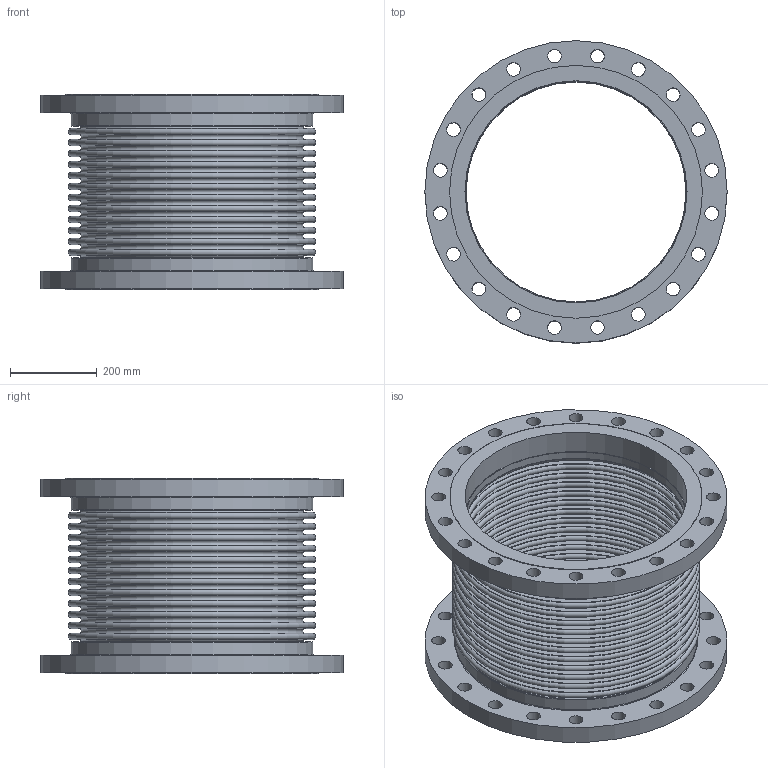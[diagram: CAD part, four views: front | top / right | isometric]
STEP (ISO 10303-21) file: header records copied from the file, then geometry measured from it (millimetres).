
FILE_DESCRIPTION(/* description */ ('EXPANSION JOINT,SINGLE, FLANGED ENDS,20 INCH','CAx-IF Rec.Pracs.---Representation and Presentation of Product Manufacturing Information (PMI)---4.0---2014-10-13'),/* implementation_level */ '2;1');
FILE_NAME(/* name */ 'US-20-12-150L-FLANGED ENDS.stp',/* time_stamp */ '2026-07-31T17:40:48-05:00',/* author */ ('Guadalupe'),/* organization */ (''),/* preprocessor_version */ 'ST-DEVELOPER v20.1',/* originating_system */ 'Autodesk Inventor 2026',/* authorisation */ '');
FILE_SCHEMA (('AP242_MANAGED_MODEL_BASED_3D_ENGINEERING_MIM_LF { 1 0 10303 442 2 1 4 }'));
Length unit declared in the file: inch
Products named in the file (3): 20-150L; 20-150L-02; 20-150L-01
Assembly tree (3 placements, depth 2):
  20-150L
    20-150L-02  x2
    20-150L-01
Bounding box: 698.5 x 698.5 x 450.6 mm (x, y, z)
Volume: 18148007.6 mm3; surface area: 4516120.7 mm2
Topology: 5 solids, 5 shells, 168 faces, 318 edges, 212 vertices
Faces by surface type: plane 62, torus 54, cylinder 52
Full cylindrical faces by diameter (mm): 31.75 x40, 508 x2, 511.048 x2, 513.08 x2, 558.8 x2, 584.2 x2, 698.5 x2
Entity records: 3762 total; most frequent: DIRECTION 766, CARTESIAN_POINT 561, ORIENTED_EDGE 480, AXIS2_PLACEMENT_3D 369, EDGE_CURVE 240, EDGE_LOOP 236, CIRCLE 212, VERTEX_POINT 160
